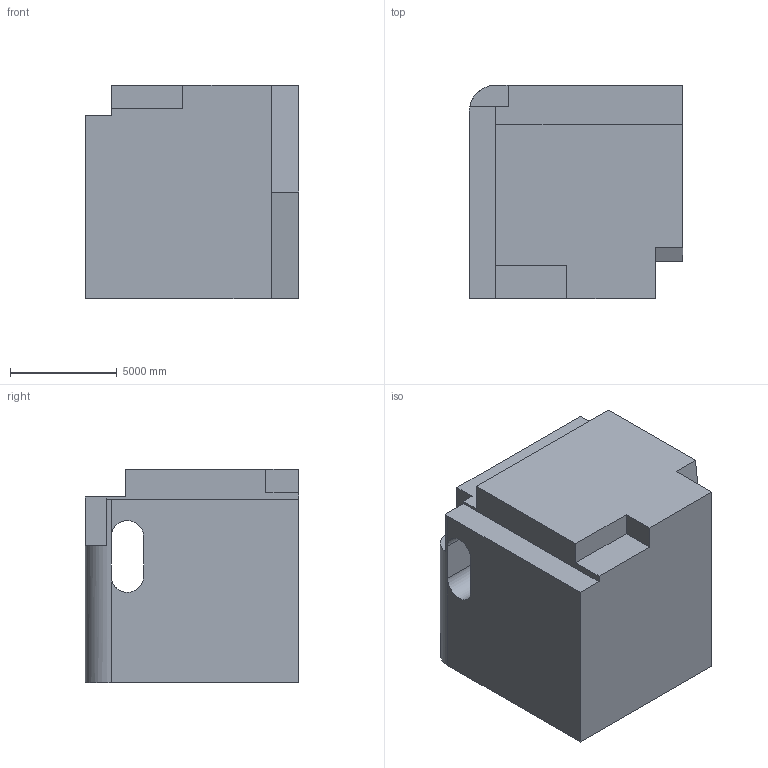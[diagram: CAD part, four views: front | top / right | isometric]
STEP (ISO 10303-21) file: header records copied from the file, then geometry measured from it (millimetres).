
FILE_DESCRIPTION (( 'STEP AP203' ), '1' );
FILE_NAME ('717.STEP', '2022-07-29T12:43:31', ( 'user' ), ( '' ), 'SwSTEP 2.0', 'SolidWorks 2021', '' );
FILE_SCHEMA (( 'CONFIG_CONTROL_DESIGN' ));
Length unit declared in the file: centimetre
Products named in the file (1): 717
Bounding box: 10000 x 10000 x 10000 mm (x, y, z)
Volume: 863271492317.5 mm3; surface area: 645526532.9 mm2
Topology: 1 solids, 1 shells, 27 faces, 81 edges, 54 vertices
Faces by surface type: plane 23, cylinder 4
Entity records: 991 total; most frequent: CARTESIAN_POINT 179, ORIENTED_EDGE 162, DIRECTION 142, EDGE_CURVE 81, LINE 68, VECTOR 68, VERTEX_POINT 54, AXIS2_PLACEMENT_3D 37
